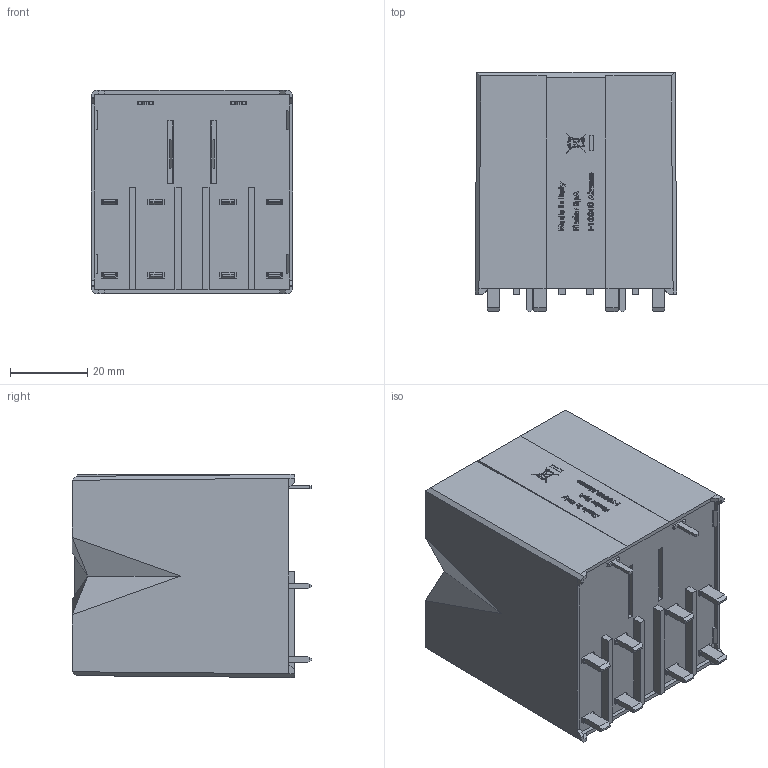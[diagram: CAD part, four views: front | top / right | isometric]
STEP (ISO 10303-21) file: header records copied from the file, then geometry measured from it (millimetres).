
FILE_DESCRIPTION(/* description */ ('Unknown'),/* implementation_level */ '2;1');
FILE_NAME(/* name */ '6824',/* time_stamp */ '2022-07-07T10:33:28+02:00',/* author */ ('Unknown'),/* organization */ ('Unknown'),/* preprocessor_version */ 'ST-DEVELOPER v16.7',/* originating_system */ 'DEX',/* authorisation */ $);
FILE_SCHEMA (('AUTOMOTIVE_DESIGN {1 0 10303 214 3 1 1}'));
Length unit declared in the file: millimetre
Products named in the file (1): 6824
Bounding box: 52.2 x 61.95 x 52.5 mm (x, y, z)
Surface area: 22147.4 mm2 (no closed solid volume)
Topology: 0 solids, 19 shells, 688 faces, 2056 edges, 1445 vertices
Faces by surface type: plane 574, bspline 70, cylinder 40, cone 2, torus 2
Full cylindrical faces by diameter (mm): 0.252 x1, 0.374 x2, 1.5 x2
Entity records: 25528 total; most frequent: CARTESIAN_POINT 7432, ORIENTED_EDGE 3696, DIRECTION 3257, EDGE_CURVE 2024, LINE 1747, VECTOR 1747, VERTEX_POINT 1437, EDGE_LOOP 792
